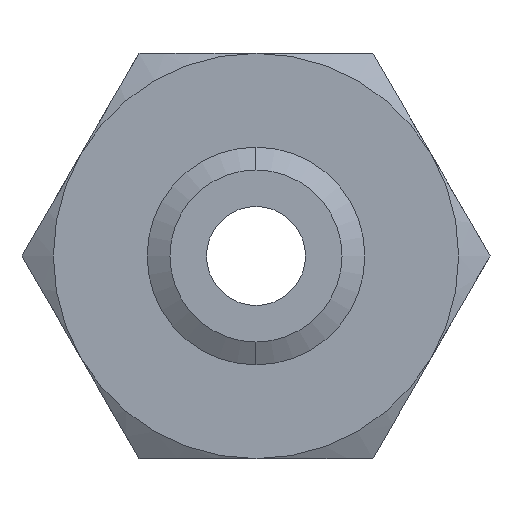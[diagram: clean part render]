
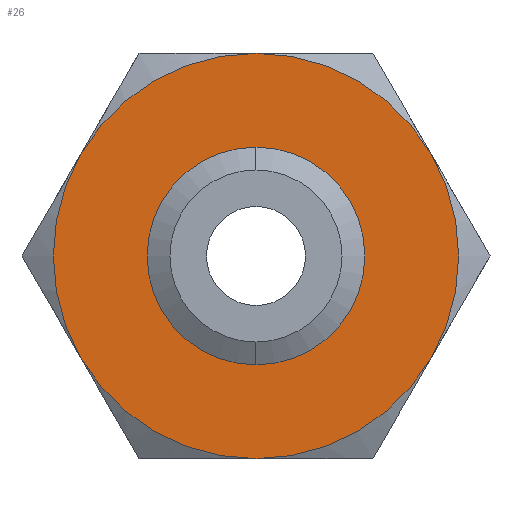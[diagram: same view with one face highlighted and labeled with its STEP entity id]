
A CAD part, front view. The second image highlights one B-rep face of the part: STEP entity #26.
In plain terms, the highlighted planar face has unit normal (0, -1, 0).
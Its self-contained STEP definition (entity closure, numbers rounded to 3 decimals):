
#23 = VERTEX_POINT ( 'NONE', #322 ) ;
#26 = ADVANCED_FACE ( 'NONE', ( #316, #310 ), #309, .F. ) ;
#27 = EDGE_LOOP ( 'NONE', ( #30, #35, #36, #1822, #1820, #1839 ) ) ;
#30 = ORIENTED_EDGE ( 'NONE', *, *, #31, .F. ) ;
#31 = EDGE_CURVE ( 'NONE', #33, #34, #307, .T. ) ;
#33 = VERTEX_POINT ( 'NONE', #299 ) ;
#34 = VERTEX_POINT ( 'NONE', #298 ) ;
#35 = ORIENTED_EDGE ( 'NONE', *, *, #37, .F. ) ;
#36 = ORIENTED_EDGE ( 'NONE', *, *, #39, .F. ) ;
#37 = EDGE_CURVE ( 'NONE', #38, #33, #360, .T. ) ;
#38 = VERTEX_POINT ( 'NONE', #355 ) ;
#39 = EDGE_CURVE ( 'NONE', #23, #38, #354, .T. ) ;
#298 = CARTESIAN_POINT ( 'NONE',  ( 28.146, 0., 16.25 ) ) ;
#299 = CARTESIAN_POINT ( 'NONE',  ( 0., 0., 32.5 ) ) ;
#300 = DIRECTION ( 'NONE',  ( 0., 0., 1. ) ) ;
#301 = DIRECTION ( 'NONE',  ( 0., 1., 0. ) ) ;
#302 = CARTESIAN_POINT ( 'NONE',  ( 0., 0., 0. ) ) ;
#303 = AXIS2_PLACEMENT_3D ( 'NONE', #302, #301, #300 ) ;
#304 = DIRECTION ( 'NONE',  ( 0., 0., 1. ) ) ;
#305 = DIRECTION ( 'NONE',  ( 0., 1., 0. ) ) ;
#306 = CARTESIAN_POINT ( 'NONE',  ( 18.764, 0., -32.5 ) ) ;
#307 = CIRCLE ( 'NONE', #303, 32.5 ) ;
#308 = AXIS2_PLACEMENT_3D ( 'NONE', #306, #305, #304 ) ;
#309 = PLANE ( 'NONE',  #308 ) ;
#310 = FACE_BOUND ( 'NONE', #1837, .T. ) ;
#316 = FACE_OUTER_BOUND ( 'NONE', #27, .T. ) ;
#322 = CARTESIAN_POINT ( 'NONE',  ( -28.146, 0., -16.25 ) ) ;
#350 = DIRECTION ( 'NONE',  ( 0., 0., 1. ) ) ;
#351 = DIRECTION ( 'NONE',  ( 0., 1., 0. ) ) ;
#352 = CARTESIAN_POINT ( 'NONE',  ( 0., 0., 0. ) ) ;
#353 = AXIS2_PLACEMENT_3D ( 'NONE', #352, #351, #350 ) ;
#354 = CIRCLE ( 'NONE', #353, 32.5 ) ;
#355 = CARTESIAN_POINT ( 'NONE',  ( -28.146, 0., 16.25 ) ) ;
#356 = DIRECTION ( 'NONE',  ( 0., 0., 1. ) ) ;
#357 = DIRECTION ( 'NONE',  ( 0., 1., 0. ) ) ;
#358 = CARTESIAN_POINT ( 'NONE',  ( 0., 0., 0. ) ) ;
#359 = AXIS2_PLACEMENT_3D ( 'NONE', #358, #357, #356 ) ;
#360 = CIRCLE ( 'NONE', #359, 32.5 ) ;
#999 = CIRCLE ( 'NONE', #1056, 32.5 ) ;
#1027 = DIRECTION ( 'NONE',  ( 0., 1., 0. ) ) ;
#1028 = CARTESIAN_POINT ( 'NONE',  ( 0., 0., 0. ) ) ;
#1029 = AXIS2_PLACEMENT_3D ( 'NONE', #1028, #1027, #1090 ) ;
#1030 = CIRCLE ( 'NONE', #1029, 32.5 ) ;
#1031 = CARTESIAN_POINT ( 'NONE',  ( 28.146, 0., -16.25 ) ) ;
#1033 = DIRECTION ( 'NONE',  ( 0., 0., 1. ) ) ;
#1034 = DIRECTION ( 'NONE',  ( 0., 1., 0. ) ) ;
#1035 = CARTESIAN_POINT ( 'NONE',  ( 0., 0., 0. ) ) ;
#1036 = AXIS2_PLACEMENT_3D ( 'NONE', #1035, #1034, #1033 ) ;
#1037 = CIRCLE ( 'NONE', #1036, 32.5 ) ;
#1048 = CARTESIAN_POINT ( 'NONE',  ( 0., 0., -32.5 ) ) ;
#1053 = DIRECTION ( 'NONE',  ( 0., 0., 1. ) ) ;
#1054 = DIRECTION ( 'NONE',  ( 0., 1., 0. ) ) ;
#1055 = CARTESIAN_POINT ( 'NONE',  ( 0., 0., 0. ) ) ;
#1056 = AXIS2_PLACEMENT_3D ( 'NONE', #1055, #1054, #1053 ) ;
#1085 = DIRECTION ( 'NONE',  ( 0., 0., -1. ) ) ;
#1086 = DIRECTION ( 'NONE',  ( 0., -1., 0. ) ) ;
#1087 = CARTESIAN_POINT ( 'NONE',  ( 0., 0., 0. ) ) ;
#1088 = AXIS2_PLACEMENT_3D ( 'NONE', #1087, #1086, #1085 ) ;
#1089 = CIRCLE ( 'NONE', #1088, 13.802 ) ;
#1090 = DIRECTION ( 'NONE',  ( 0., 0., 1. ) ) ;
#1388 = CARTESIAN_POINT ( 'NONE',  ( 0., 0., -13.802 ) ) ;
#1389 = CARTESIAN_POINT ( 'NONE',  ( 0., 0., 13.802 ) ) ;
#1390 = DIRECTION ( 'NONE',  ( 0., 0., -1. ) ) ;
#1391 = DIRECTION ( 'NONE',  ( 0., -1., 0. ) ) ;
#1392 = CARTESIAN_POINT ( 'NONE',  ( 0., 0., 0. ) ) ;
#1393 = AXIS2_PLACEMENT_3D ( 'NONE', #1392, #1391, #1390 ) ;
#1394 = CIRCLE ( 'NONE', #1393, 13.802 ) ;
#1819 = EDGE_CURVE ( 'NONE', #1824, #23, #999, .T. ) ;
#1820 = ORIENTED_EDGE ( 'NONE', *, *, #1832, .F. ) ;
#1822 = ORIENTED_EDGE ( 'NONE', *, *, #1819, .F. ) ;
#1824 = VERTEX_POINT ( 'NONE', #1048 ) ;
#1832 = EDGE_CURVE ( 'NONE', #1838, #1824, #1037, .T. ) ;
#1835 = ORIENTED_EDGE ( 'NONE', *, *, #1846, .F. ) ;
#1837 = EDGE_LOOP ( 'NONE', ( #1840, #1835 ) ) ;
#1838 = VERTEX_POINT ( 'NONE', #1031 ) ;
#1839 = ORIENTED_EDGE ( 'NONE', *, *, #1843, .F. ) ;
#1840 = ORIENTED_EDGE ( 'NONE', *, *, #2031, .F. ) ;
#1843 = EDGE_CURVE ( 'NONE', #34, #1838, #1030, .T. ) ;
#1846 = EDGE_CURVE ( 'NONE', #2032, #2033, #1089, .T. ) ;
#2031 = EDGE_CURVE ( 'NONE', #2033, #2032, #1394, .T. ) ;
#2032 = VERTEX_POINT ( 'NONE', #1389 ) ;
#2033 = VERTEX_POINT ( 'NONE', #1388 ) ;
